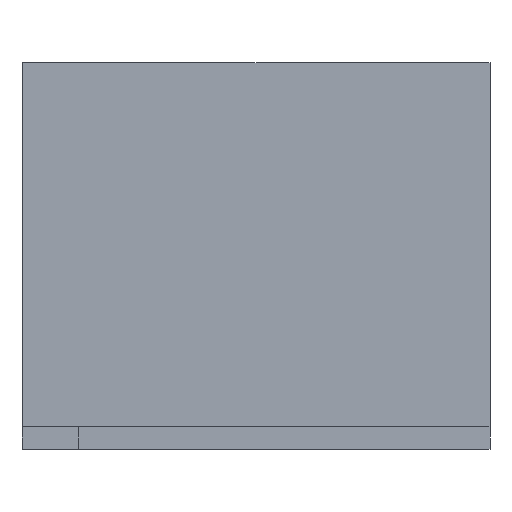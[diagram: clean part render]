
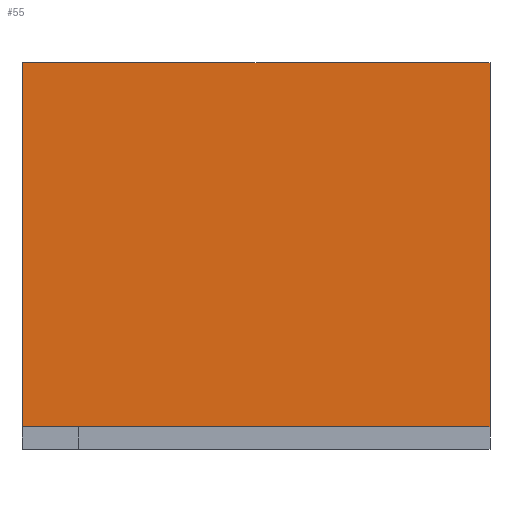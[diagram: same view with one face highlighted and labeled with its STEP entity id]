
A CAD part, front view. The second image highlights one B-rep face of the part: STEP entity #55.
In plain terms, the highlighted planar face has unit normal (0, -1, 0).
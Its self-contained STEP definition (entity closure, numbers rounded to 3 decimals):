
#55 = ADVANCED_FACE('',(#56),#98,.F.);
#56 = FACE_BOUND('',#57,.F.);
#57 = EDGE_LOOP('',(#58,#68,#76,#84,#92));
#58 = ORIENTED_EDGE('',*,*,#59,.T.);
#59 = EDGE_CURVE('',#60,#62,#64,.T.);
#60 = VERTEX_POINT('',#61);
#61 = CARTESIAN_POINT('',(0.,0.,0.));
#62 = VERTEX_POINT('',#63);
#63 = CARTESIAN_POINT('',(0.,0.,21.));
#64 = LINE('',#65,#66);
#65 = CARTESIAN_POINT('',(0.,0.,0.));
#66 = VECTOR('',#67,1.);
#67 = DIRECTION('',(0.,0.,1.));
#68 = ORIENTED_EDGE('',*,*,#69,.T.);
#69 = EDGE_CURVE('',#62,#70,#72,.T.);
#70 = VERTEX_POINT('',#71);
#71 = CARTESIAN_POINT('',(27.,0.,21.));
#72 = LINE('',#73,#74);
#73 = CARTESIAN_POINT('',(0.,0.,21.));
#74 = VECTOR('',#75,1.);
#75 = DIRECTION('',(1.,0.,0.));
#76 = ORIENTED_EDGE('',*,*,#77,.F.);
#77 = EDGE_CURVE('',#78,#70,#80,.T.);
#78 = VERTEX_POINT('',#79);
#79 = CARTESIAN_POINT('',(27.,0.,0.));
#80 = LINE('',#81,#82);
#81 = CARTESIAN_POINT('',(27.,0.,0.));
#82 = VECTOR('',#83,1.);
#83 = DIRECTION('',(0.,0.,1.));
#84 = ORIENTED_EDGE('',*,*,#85,.F.);
#85 = EDGE_CURVE('',#86,#78,#88,.T.);
#86 = VERTEX_POINT('',#87);
#87 = CARTESIAN_POINT('',(3.28,0.,0.));
#88 = LINE('',#89,#90);
#89 = CARTESIAN_POINT('',(0.,0.,0.));
#90 = VECTOR('',#91,1.);
#91 = DIRECTION('',(1.,0.,0.));
#92 = ORIENTED_EDGE('',*,*,#93,.F.);
#93 = EDGE_CURVE('',#60,#86,#94,.T.);
#94 = LINE('',#95,#96);
#95 = CARTESIAN_POINT('',(0.,0.,0.));
#96 = VECTOR('',#97,1.);
#97 = DIRECTION('',(1.,0.,0.));
#98 = PLANE('',#99);
#99 = AXIS2_PLACEMENT_3D('',#100,#101,#102);
#100 = CARTESIAN_POINT('',(0.,0.,0.));
#101 = DIRECTION('',(0.,1.,0.));
#102 = DIRECTION('',(1.,0.,0.));
